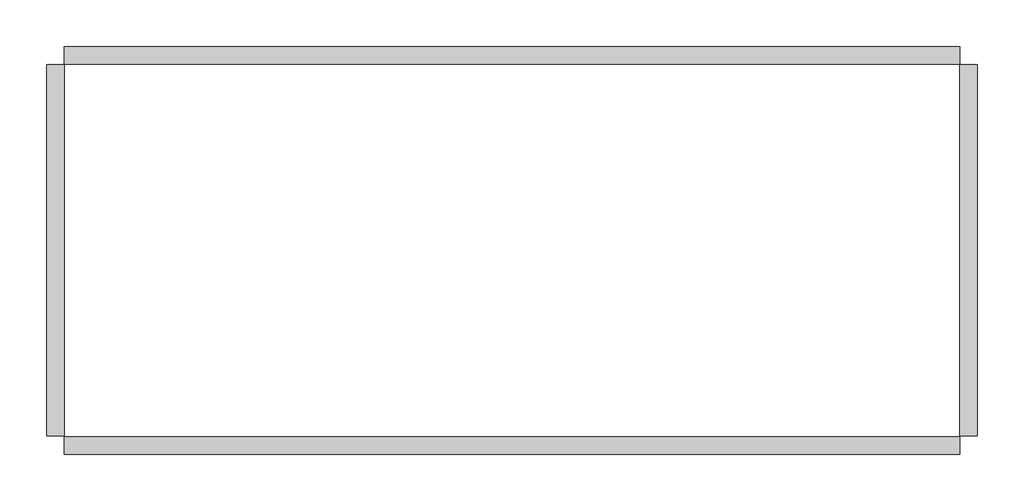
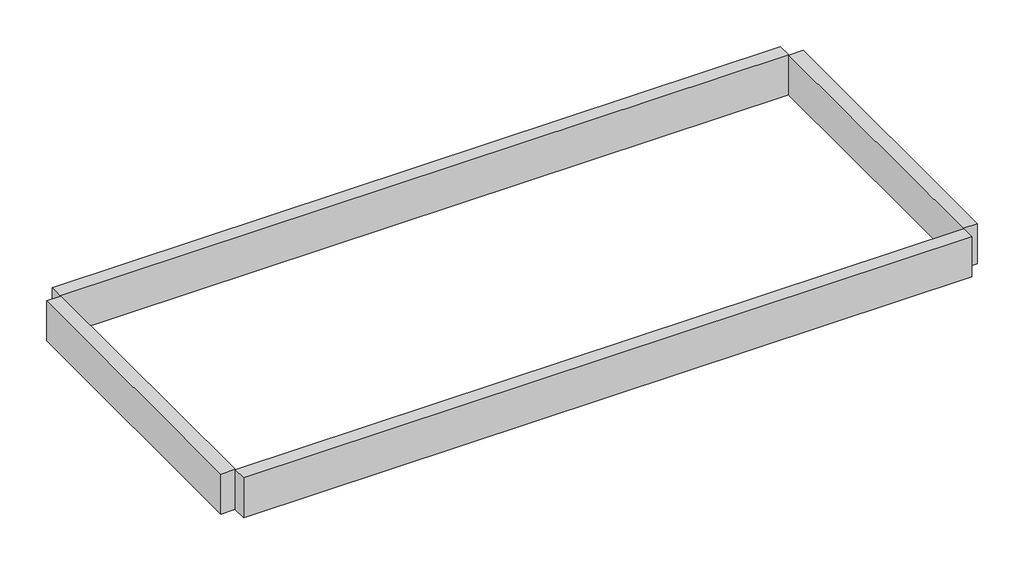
# One storey: 4 beams.
"""IFC4 building model written with IfcOpenShell, lengths in millimetres."""

import ifcopenshell
import ifcopenshell.guid

model = None  # the IFC model being written
_history = None  # IfcOwnerHistory: only IFC2X3 demands one
_inside = {}  # id of a spatial element -> (the spatial element, [elements in it])
_under = {}  # id of a project, library or spatial element -> (it, [spatial elements below it])
_declared = {}  # id of a project -> (the project, [libraries it declares])
_typed = {}  # id of a type object -> (the type object, [elements of that type])
_made_of = {}  # id of a material, layer set ... -> (it, [elements and type objects made of it])


def new_model(schema):
    """Start an empty IFC model of exactly this schema.

    Asked for "IFC4X3", IfcOpenShell would pick the latest addendum, in which some entities
    have other attributes; the version numbers below select the first issue.
    IFC2X3 requires an IfcOwnerHistory on every rooted entity: one is made here for all.
    """
    global model, _history
    if schema == "IFC4X3":
        model = ifcopenshell.file(schema_version=(4, 3, 0, 0))
    else:
        model = ifcopenshell.file(schema=schema)
    _inside.clear()
    _under.clear()
    _declared.clear()
    _typed.clear()
    _made_of.clear()
    _history = None
    if model.schema == "IFC2X3":
        org = make("IfcOrganization", Name="unknown")
        user = make(
            "IfcPersonAndOrganization",
            ThePerson=make("IfcPerson", FamilyName="unknown"),
            TheOrganization=org,
        )
        app = make(
            "IfcApplication",
            ApplicationDeveloper=org,
            Version="unknown",
            ApplicationFullName="unknown",
            ApplicationIdentifier="unknown",
        )
        _history = make(
            "IfcOwnerHistory",
            OwningUser=user,
            OwningApplication=app,
            ChangeAction="ADDED",
            CreationDate=0,
        )
    return model


def make(cls, **values):
    """One entity of the class cls with the attributes given. An attribute that is None is left unset."""
    return model.create_entity(
        cls, **{name: value for name, value in values.items() if value is not None}
    )


def rooted(cls, **values):
    """An entity with a GlobalId (a new one), such as an element, a storey or a relation."""
    return make(cls, GlobalId=ifcopenshell.guid.new(), OwnerHistory=_history, **values)


def si_unit(unit_type, name, prefix=None):
    """IfcSIUnit, for example si_unit("LENGTHUNIT", "METRE", prefix="MILLI")."""
    return make("IfcSIUnit", UnitType=unit_type, Prefix=prefix, Name=name)


def assignment(units):
    """IfcUnitAssignment: the units of a project."""
    return None if units is None else make("IfcUnitAssignment", Units=units)


def point(xyz):
    """IfcCartesianPoint."""
    return None if xyz is None else make("IfcCartesianPoint", Coordinates=xyz)


def direction(xyz):
    """IfcDirection."""
    return None if xyz is None else make("IfcDirection", DirectionRatios=xyz)


def frame(location, z_axis=None, x_axis=None):
    """IfcAxis2Placement3D, a coordinate frame: its origin and axes. An axis left out is left unset."""
    return make(
        "IfcAxis2Placement3D",
        Location=point(location),
        Axis=direction(z_axis),
        RefDirection=direction(x_axis),
    )


def origin():
    """The frame at (0, 0, 0) with its axes left unset."""
    return frame((0.0, 0.0, 0.0))


def place(relative_to, where):
    """IfcLocalPlacement: puts the frame where relative to a parent placement (None: the world)."""
    return make(
        "IfcLocalPlacement", PlacementRelTo=relative_to, RelativePlacement=where
    )


def context(
    kind, dimensions, precision=None, world=None, true_north=None, identifier=None
):
    """IfcGeometricRepresentationContext, for example the 3D "Model" context."""
    return make(
        "IfcGeometricRepresentationContext",
        ContextIdentifier=identifier,
        ContextType=kind,
        CoordinateSpaceDimension=dimensions,
        Precision=precision,
        WorldCoordinateSystem=world,
        TrueNorth=true_north,
    )


def project(units=None, contexts=None):
    """IfcProject with its units and contexts."""
    return rooted(
        "IfcProject",
        Name="project",
        RepresentationContexts=contexts,
        UnitsInContext=assignment(units),
    )


def spatial(cls, under=None, at=None, **own):
    """A site, building, storey or space (cls), placed at a placement, below another one or the project."""
    s = rooted(cls, ObjectPlacement=at, **own)
    if under is not None:
        _under.setdefault(under.id(), (under, []))[1].append(s)
    return s


def polyline(points):
    """IfcPolyline through the points."""
    return make("IfcPolyline", Points=[point(p) for p in points])


def outline(outer, holes=None, kind="AREA"):
    """IfcArbitraryClosedProfileDef: a profile drawn as a closed curve; with holes, ...WithVoids."""
    if holes is None:
        return make("IfcArbitraryClosedProfileDef", ProfileType=kind, OuterCurve=outer)
    return make(
        "IfcArbitraryProfileDefWithVoids",
        ProfileType=kind,
        OuterCurve=outer,
        InnerCurves=holes,
    )


def extrude(swept, where, along, depth):
    """IfcExtrudedAreaSolid: the profile swept, set in the frame where, extruded along a direction by depth."""
    return make(
        "IfcExtrudedAreaSolid",
        SweptArea=swept,
        Position=where,
        ExtrudedDirection=direction(along),
        Depth=depth,
    )


def shape(context_of_items, identifier, shape_type, items):
    """IfcShapeRepresentation: the items that make up one representation, for example the "Body"."""
    return make(
        "IfcShapeRepresentation",
        ContextOfItems=context_of_items,
        RepresentationIdentifier=identifier,
        RepresentationType=shape_type,
        Items=items,
    )


def source(mapping_origin, context_of_items, identifier, shape_type, items):
    """IfcRepresentationMap: a shape defined once, which mapped items show again and again."""
    return make(
        "IfcRepresentationMap",
        MappingOrigin=mapping_origin,
        MappedRepresentation=shape(context_of_items, identifier, shape_type, items),
    )


def transform(
    local_origin,
    x_axis=None,
    y_axis=None,
    z_axis=None,
    scale=None,
    scale2=None,
    scale3=None,
    uniform=True,
):
    """IfcCartesianTransformationOperator3D, or its non-uniform kind. x_axis, y_axis, z_axis: its Axis1, 2, 3."""
    if uniform:
        return make(
            "IfcCartesianTransformationOperator3D",
            Axis1=direction(x_axis),
            Axis2=direction(y_axis),
            LocalOrigin=point(local_origin),
            Scale=scale,
            Axis3=direction(z_axis),
        )
    return make(
        "IfcCartesianTransformationOperator3DnonUniform",
        Axis1=direction(x_axis),
        Axis2=direction(y_axis),
        LocalOrigin=point(local_origin),
        Scale=scale,
        Axis3=direction(z_axis),
        Scale2=scale2,
        Scale3=scale3,
    )


def mapped(mapping_source, mapping_target):
    """IfcMappedItem: shows the shape of a source again, moved by a transform."""
    return make(
        "IfcMappedItem", MappingSource=mapping_source, MappingTarget=mapping_target
    )


def made_of(thing, what):
    """Note that an element or type object is made of a material, layer set ...; save() writes the relation."""
    if what is not None:
        _made_of.setdefault(what.id(), (what, []))[1].append(thing)
    return thing


def element(
    cls,
    number,
    at=None,
    inside=None,
    cuts=None,
    type_object=None,
    material=None,
    context=None,
    identifier="Body",
    shape_type=None,
    held_by="IfcProductDefinitionShape",
    body=None,
    shapes=None,
    **own,
):
    """One element of the class cls, such as IfcWall. Its Tag is "e" and its number.

    at: its placement. inside: the storey or other place that contains it. cuts: it is an
    opening in that element (IfcRelVoidsElement). A single representation is given by context,
    identifier, shape_type and body (its items); several are given by shapes. held_by: the class
    of the entity that holds the representations. save() writes the other relations.
    """
    e = rooted(cls, Tag="e%d" % number, ObjectPlacement=at, **own)
    if body is not None:
        shapes = [shape(context, identifier, shape_type, body)]
    if shapes is not None:
        e.Representation = make(held_by, Representations=shapes)
    if inside is not None:
        _inside.setdefault(inside.id(), (inside, []))[1].append(e)
    if cuts is not None:
        rooted(
            "IfcRelVoidsElement", RelatingBuildingElement=cuts, RelatedOpeningElement=e
        )
    if type_object is not None:
        _typed.setdefault(type_object.id(), (type_object, []))[1].append(e)
    return made_of(e, material)


def aggregate(whole, parts):
    """IfcRelAggregates: a whole, such as a stair, and the parts it consists of."""
    return rooted("IfcRelAggregates", RelatingObject=whole, RelatedObjects=parts)


def save(model, path):
    """Write the relations noted so far, then the file.

    IfcRelAggregates (storeys below a building ...), IfcRelContainedInSpatialStructure (elements
    in a storey), IfcRelDefinesByType, IfcRelAssociatesMaterial and IfcRelDeclares: one each for
    every whole, place, type object, material and project.
    """
    for whole, parts in _under.values():
        aggregate(whole, parts)
    for where, things in _inside.values():
        rooted(
            "IfcRelContainedInSpatialStructure",
            RelatedElements=things,
            RelatingStructure=where,
        )
    for kind, things in _typed.values():
        rooted("IfcRelDefinesByType", RelatedObjects=things, RelatingType=kind)
    for what, things in _made_of.values():
        rooted("IfcRelAssociatesMaterial", RelatedObjects=things, RelatingMaterial=what)
    for by, libraries in _declared.values():
        rooted("IfcRelDeclares", RelatingContext=by, RelatedDefinitions=libraries)
    model.write(path)


def m_glulam_western_species_130x381_46f986f1(model_context):
    return source(origin(), model_context, "Body", "SweptSolid", [
        extrude(outline(polyline([(3280.5, 65.0), (3280.5, -65.0), (-3280.5, -65.0), (-3280.5, 65.0), (3280.5, 65.0)])), frame((0.0, 0.0, -190.5), z_axis=(0.0, 0.0, 1.0), x_axis=(1.0, 0.0, 0.0)), (0.0, 0.0, 1.0), 381.0),
    ])


def m_glulam_western_species_130x381_f77135f9(model_context):
    return source(origin(), model_context, "Body", "SweptSolid", [
        extrude(outline(polyline([(1360.0, 65.0), (1360.0, -65.0), (-1360.0, -65.0), (-1360.0, 65.0), (1360.0, 65.0)])), frame((0.0, 0.0, -190.5), z_axis=(0.0, 0.0, 1.0), x_axis=(1.0, 0.0, 0.0)), (0.0, 0.0, 1.0), 381.0),
    ])


model = new_model("IFC4")

# Units and contexts
model_context = context("Model", 3, world=origin())
ifc_project = project(units=[si_unit("LENGTHUNIT", "METRE", prefix="MILLI")], contexts=[model_context])

# Site, building, storey
site = spatial("IfcSite", under=ifc_project)
building = spatial("IfcBuilding", under=site)
storey = spatial("IfcBuildingStorey", under=building, Name="Pergula Top", Elevation=3200.0)

# Beams
placement = place(None, origin())
m_glulam_western_species_130x381_shape = m_glulam_western_species_130x381_46f986f1(model_context)
element("IfcBeam", 1, ObjectType="M_Glulam-Western Species : 130X381", at=placement, inside=storey, context=model_context, shape_type="MappedRepresentation", body=[
    mapped(m_glulam_western_species_130x381_shape, transform((-4730.0407999, 9267.2898352, 3009.5), x_axis=(1.0, 0.0, 0.0), y_axis=(0.0, 1.0, 0.0), z_axis=(0.0, 0.0, 1.0))),
])
element("IfcBeam", 2, ObjectType="M_Glulam-Western Species : 130X381", at=placement, inside=storey, context=model_context, shape_type="MappedRepresentation", body=[
    mapped(m_glulam_western_species_130x381_shape, transform((-4730.0407999, 6407.2898352, 3009.5), x_axis=(1.0, 0.0, 0.0), y_axis=(0.0, 1.0, 0.0), z_axis=(0.0, 0.0, 1.0))),
])
m_glulam_western_species_130x381_2_shape = m_glulam_western_species_130x381_f77135f9(model_context)
element("IfcBeam", 3, ObjectType="M_Glulam-Western Species : 130X381", at=placement, inside=storey, context=model_context, shape_type="MappedRepresentation", body=[
    mapped(m_glulam_western_species_130x381_2_shape, transform((-8074.0407999, 7837.2898352, 3009.5), x_axis=(0.0, -1.0, 0.0), y_axis=(1.0, 0.0, 0.0), z_axis=(0.0, 0.0, 1.0))),
])
element("IfcBeam", 4, ObjectType="M_Glulam-Western Species : 130X381", at=placement, inside=storey, context=model_context, shape_type="MappedRepresentation", body=[
    mapped(m_glulam_western_species_130x381_2_shape, transform((-1386.0407999, 7837.2898352, 3009.5), x_axis=(0.0, -1.0, 0.0), y_axis=(1.0, 0.0, 0.0), z_axis=(0.0, 0.0, 1.0))),
])

save(model, "model.ifc")
